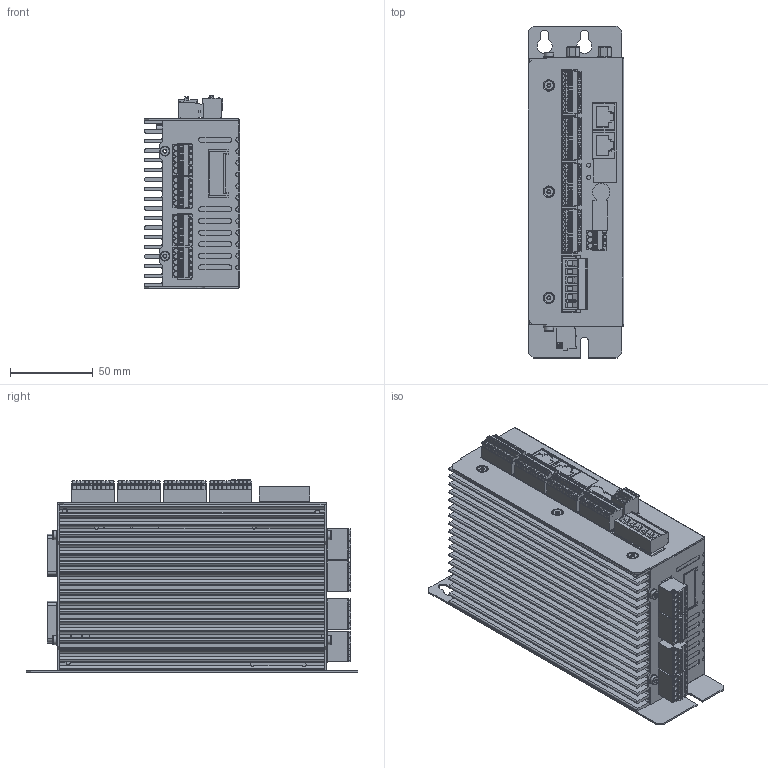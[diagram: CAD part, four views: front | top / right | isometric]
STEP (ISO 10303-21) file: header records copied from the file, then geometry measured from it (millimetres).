
FILE_DESCRIPTION (( 'STEP AP203' ), '1' );
FILE_NAME ('GIN-AX4x44.STEP', '2014-09-11T13:30:24', ( '' ), ( '' ), 'SwSTEP 2.0', 'SolidWorks 2014', '' );
FILE_SCHEMA (( 'CONFIG_CONTROL_DESIGN' ));
Length unit declared in the file: millimetre
Products named in the file (1): GIN-AX4x44
Bounding box: 57.6 x 200 x 115.95 mm (x, y, z)
Surface area: 158532.5 mm2 (no closed solid volume)
Topology: 0 solids, 235 shells, 3206 faces, 13620 edges, 10138 vertices
Faces by surface type: plane 1945, cylinder 1103, bspline 140, cone 8, sphere 6, torus 4
Full cylindrical faces by diameter (mm): 0.457 x1, 1.143 x60, 2.261 x8, 2.4 x7, 2.5 x6, 3 x2, 3.048 x8, 3.1 x23, 4 x6, 5.5 x10
Entity records: 152482 total; most frequent: CARTESIAN_POINT 43965, DIRECTION 22384, ORIENTED_EDGE 19324, EDGE_CURVE 13401, VERTEX_POINT 10088, LINE 9246, VECTOR 9246, AXIS2_PLACEMENT_3D 6569
